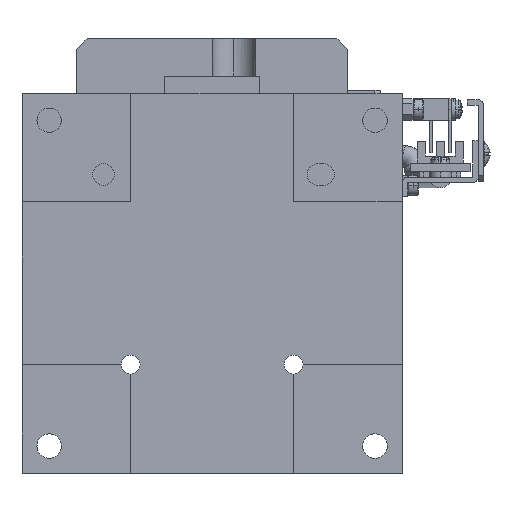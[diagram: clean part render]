
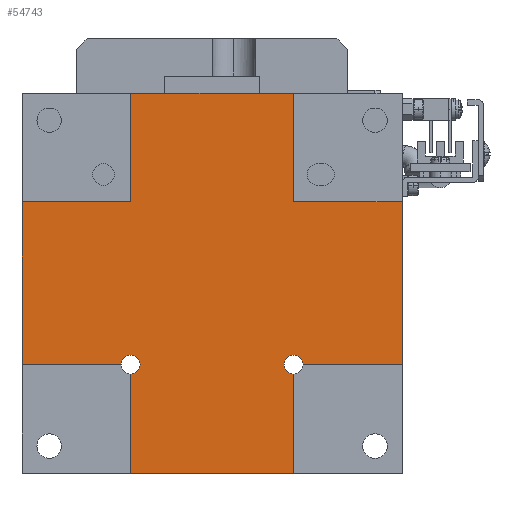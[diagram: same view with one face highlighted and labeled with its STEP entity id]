
A CAD part, front view. The second image highlights one B-rep face of the part: STEP entity #54743.
In plain terms, the highlighted planar face has unit normal (0, -1, 0) as drawn and (1, 0, 0) by its records, which use the part's own axes.
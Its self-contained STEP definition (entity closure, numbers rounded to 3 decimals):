
#54 = ORIENTED_EDGE ( 'NONE', *, *, #63925, .T. ) ;
#383 = LINE ( 'NONE', #56330, #36694 ) ;
#646 = VECTOR ( 'NONE', #55739, 1000. ) ;
#706 = ORIENTED_EDGE ( 'NONE', *, *, #36146, .T. ) ;
#1236 = VECTOR ( 'NONE', #46497, 1000. ) ;
#1338 = DIRECTION ( 'NONE',  ( 0., 0., 1. ) ) ;
#1546 = CIRCLE ( 'NONE', #35709, 1.75 ) ;
#1666 = VECTOR ( 'NONE', #64735, 1000. ) ;
#2385 = CARTESIAN_POINT ( 'NONE',  ( -143.628, 76.428, -166.982 ) ) ;
#3040 = CARTESIAN_POINT ( 'NONE',  ( -143.628, 26.428, -186.982 ) ) ;
#3459 = DIRECTION ( 'NONE',  ( 0., 1., 0. ) ) ;
#3658 = DIRECTION ( 'NONE',  ( 1., 0., 0. ) ) ;
#5149 = VERTEX_POINT ( 'NONE', #53027 ) ;
#5946 = LINE ( 'NONE', #3040, #7520 ) ;
#7320 = CIRCLE ( 'NONE', #36515, 1.75 ) ;
#7520 = VECTOR ( 'NONE', #32846, 1000. ) ;
#7651 = VERTEX_POINT ( 'NONE', #46202 ) ;
#8574 = EDGE_CURVE ( 'NONE', #41471, #32293, #62039, .T. ) ;
#9369 = DIRECTION ( 'NONE',  ( 1., 0., 0. ) ) ;
#9416 = EDGE_CURVE ( 'NONE', #29345, #41471, #59633, .T. ) ;
#9510 = LINE ( 'NONE', #19469, #32487 ) ;
#10011 = ORIENTED_EDGE ( 'NONE', *, *, #54323, .F. ) ;
#12072 = VECTOR ( 'NONE', #43266, 1000. ) ;
#12717 = CARTESIAN_POINT ( 'NONE',  ( -143.628, 26.428, -166.982 ) ) ;
#13146 = AXIS2_PLACEMENT_3D ( 'NONE', #43072, #52557, #27814 ) ;
#13540 = ORIENTED_EDGE ( 'NONE', *, *, #41597, .T. ) ;
#14342 = CARTESIAN_POINT ( 'NONE',  ( -143.628, 26.428, -186.982 ) ) ;
#14882 = CARTESIAN_POINT ( 'NONE',  ( -143.628, 56.428, -166.982 ) ) ;
#15173 = ORIENTED_EDGE ( 'NONE', *, *, #18597, .T. ) ;
#15496 = CARTESIAN_POINT ( 'NONE',  ( -143.628, 26.428, -165.232 ) ) ;
#15773 = VERTEX_POINT ( 'NONE', #2385 ) ;
#17142 = CARTESIAN_POINT ( 'NONE',  ( -143.628, 6.428, -166.982 ) ) ;
#17323 = VERTEX_POINT ( 'NONE', #17142 ) ;
#17348 = FACE_OUTER_BOUND ( 'NONE', #24692, .T. ) ;
#17439 = EDGE_CURVE ( 'NONE', #61523, #39014, #5946, .T. ) ;
#17738 = ORIENTED_EDGE ( 'NONE', *, *, #18334, .F. ) ;
#18334 = EDGE_CURVE ( 'NONE', #17323, #29345, #21639, .T. ) ;
#18597 = EDGE_CURVE ( 'NONE', #39014, #39803, #28685, .T. ) ;
#18650 = CARTESIAN_POINT ( 'NONE',  ( -143.628, 24.678, -166.982 ) ) ;
#18757 = CARTESIAN_POINT ( 'NONE',  ( -143.628, 26.428, -116.982 ) ) ;
#19302 = ORIENTED_EDGE ( 'NONE', *, *, #29967, .F. ) ;
#19469 = CARTESIAN_POINT ( 'NONE',  ( -143.628, 6.428, -136.982 ) ) ;
#20360 = VECTOR ( 'NONE', #1338, 1000. ) ;
#21217 = AXIS2_PLACEMENT_3D ( 'NONE', #33888, #3658, #29943 ) ;
#21639 = LINE ( 'NONE', #41317, #61177 ) ;
#22696 = DIRECTION ( 'NONE',  ( 1., 0., 0. ) ) ;
#23445 = CARTESIAN_POINT ( 'NONE',  ( -143.628, 56.428, -168.732 ) ) ;
#24692 = EDGE_LOOP ( 'NONE', ( #44990, #31946, #54, #38449, #706, #62127, #37061, #60501, #17738, #13540, #10011, #19302, #58246, #26929, #15173, #59376 ) ) ;
#24693 = EDGE_CURVE ( 'NONE', #32293, #7651, #383, .T. ) ;
#25247 = CIRCLE ( 'NONE', #49536, 1.75 ) ;
#25405 = DIRECTION ( 'NONE',  ( 0., 1., 0. ) ) ;
#25871 = LINE ( 'NONE', #61828, #20360 ) ;
#26044 = CARTESIAN_POINT ( 'NONE',  ( -143.628, 6.428, -166.982 ) ) ;
#26929 = ORIENTED_EDGE ( 'NONE', *, *, #17439, .T. ) ;
#27299 = EDGE_CURVE ( 'NONE', #5149, #39435, #9510, .T. ) ;
#27814 = DIRECTION ( 'NONE',  ( 0., 0., -1. ) ) ;
#28096 = EDGE_CURVE ( 'NONE', #61523, #61201, #25871, .T. ) ;
#28685 = LINE ( 'NONE', #52978, #12072 ) ;
#29345 = VERTEX_POINT ( 'NONE', #38222 ) ;
#29605 = CARTESIAN_POINT ( 'NONE',  ( -143.628, 76.428, -166.982 ) ) ;
#29636 = CARTESIAN_POINT ( 'NONE',  ( -143.628, 26.428, -136.982 ) ) ;
#29659 = DIRECTION ( 'NONE',  ( 0., 1., 0. ) ) ;
#29943 = DIRECTION ( 'NONE',  ( 0., 0., -1. ) ) ;
#29967 = EDGE_CURVE ( 'NONE', #61201, #50275, #48573, .T. ) ;
#31154 = DIRECTION ( 'NONE',  ( 0., 1., 0. ) ) ;
#31483 = LINE ( 'NONE', #62097, #65463 ) ;
#31705 = EDGE_CURVE ( 'NONE', #41001, #60976, #7320, .T. ) ;
#31946 = ORIENTED_EDGE ( 'NONE', *, *, #54620, .T. ) ;
#32293 = VERTEX_POINT ( 'NONE', #18757 ) ;
#32487 = VECTOR ( 'NONE', #29659, 1000. ) ;
#32846 = DIRECTION ( 'NONE',  ( 0., 1., 0. ) ) ;
#33155 = CARTESIAN_POINT ( 'NONE',  ( -143.628, 26.428, -168.732 ) ) ;
#33888 = CARTESIAN_POINT ( 'NONE',  ( -143.628, 26.428, -166.982 ) ) ;
#34392 = CARTESIAN_POINT ( 'NONE',  ( -143.628, 76.428, -136.982 ) ) ;
#35709 = AXIS2_PLACEMENT_3D ( 'NONE', #14882, #9369, #55330 ) ;
#36146 = EDGE_CURVE ( 'NONE', #5149, #7651, #59082, .T. ) ;
#36239 = DIRECTION ( 'NONE',  ( 0., 1., 0. ) ) ;
#36515 = AXIS2_PLACEMENT_3D ( 'NONE', #42379, #22696, #37528 ) ;
#36694 = VECTOR ( 'NONE', #31154, 1000. ) ;
#37061 = ORIENTED_EDGE ( 'NONE', *, *, #8574, .F. ) ;
#37528 = DIRECTION ( 'NONE',  ( 0., 0., -1. ) ) ;
#38222 = CARTESIAN_POINT ( 'NONE',  ( -143.628, 6.428, -136.982 ) ) ;
#38449 = ORIENTED_EDGE ( 'NONE', *, *, #27299, .F. ) ;
#39014 = VERTEX_POINT ( 'NONE', #46181 ) ;
#39169 = DIRECTION ( 'NONE',  ( 1., 0., 0. ) ) ;
#39435 = VERTEX_POINT ( 'NONE', #34392 ) ;
#39803 = VERTEX_POINT ( 'NONE', #23445 ) ;
#40968 = CARTESIAN_POINT ( 'NONE',  ( -143.628, 58.178, -166.982 ) ) ;
#41001 = VERTEX_POINT ( 'NONE', #40968 ) ;
#41317 = CARTESIAN_POINT ( 'NONE',  ( -143.628, 6.428, -166.982 ) ) ;
#41471 = VERTEX_POINT ( 'NONE', #29636 ) ;
#41597 = EDGE_CURVE ( 'NONE', #17323, #52766, #54489, .T. ) ;
#42379 = CARTESIAN_POINT ( 'NONE',  ( -143.628, 56.428, -166.982 ) ) ;
#43035 = VECTOR ( 'NONE', #3459, 1000. ) ;
#43072 = CARTESIAN_POINT ( 'NONE',  ( -143.628, 26.428, -186.982 ) ) ;
#43266 = DIRECTION ( 'NONE',  ( 0., 0., 1. ) ) ;
#44990 = ORIENTED_EDGE ( 'NONE', *, *, #31705, .F. ) ;
#46181 = CARTESIAN_POINT ( 'NONE',  ( -143.628, 56.428, -186.982 ) ) ;
#46188 = DIRECTION ( 'NONE',  ( 0., 0., 1. ) ) ;
#46202 = CARTESIAN_POINT ( 'NONE',  ( -143.628, 56.428, -116.982 ) ) ;
#46497 = DIRECTION ( 'NONE',  ( 0., 0., 1. ) ) ;
#47276 = PLANE ( 'NONE',  #13146 ) ;
#47542 = EDGE_CURVE ( 'NONE', #60976, #39803, #1546, .T. ) ;
#48573 = CIRCLE ( 'NONE', #21217, 1.75 ) ;
#49536 = AXIS2_PLACEMENT_3D ( 'NONE', #12717, #39169, #54172 ) ;
#49861 = LINE ( 'NONE', #29605, #1666 ) ;
#50275 = VERTEX_POINT ( 'NONE', #15496 ) ;
#50521 = CARTESIAN_POINT ( 'NONE',  ( -143.628, 56.428, -165.232 ) ) ;
#50666 = CARTESIAN_POINT ( 'NONE',  ( -143.628, 56.428, -186.982 ) ) ;
#52557 = DIRECTION ( 'NONE',  ( 1., 0., 0. ) ) ;
#52766 = VERTEX_POINT ( 'NONE', #18650 ) ;
#52914 = VECTOR ( 'NONE', #25405, 1000. ) ;
#52978 = CARTESIAN_POINT ( 'NONE',  ( -143.628, 56.428, -186.982 ) ) ;
#53027 = CARTESIAN_POINT ( 'NONE',  ( -143.628, 56.428, -136.982 ) ) ;
#54172 = DIRECTION ( 'NONE',  ( 0., 0., -1. ) ) ;
#54323 = EDGE_CURVE ( 'NONE', #50275, #52766, #25247, .T. ) ;
#54489 = LINE ( 'NONE', #26044, #52914 ) ;
#54620 = EDGE_CURVE ( 'NONE', #41001, #15773, #31483, .T. ) ;
#54743 = ADVANCED_FACE ( 'NONE', ( #17348 ), #47276, .T. ) ;
#55330 = DIRECTION ( 'NONE',  ( 0., 0., -1. ) ) ;
#55739 = DIRECTION ( 'NONE',  ( 0., 0., 1. ) ) ;
#55768 = CARTESIAN_POINT ( 'NONE',  ( -143.628, 26.428, -186.982 ) ) ;
#56330 = CARTESIAN_POINT ( 'NONE',  ( -143.628, 26.428, -116.982 ) ) ;
#58246 = ORIENTED_EDGE ( 'NONE', *, *, #28096, .F. ) ;
#59082 = LINE ( 'NONE', #50666, #646 ) ;
#59376 = ORIENTED_EDGE ( 'NONE', *, *, #47542, .F. ) ;
#59633 = LINE ( 'NONE', #64201, #43035 ) ;
#60501 = ORIENTED_EDGE ( 'NONE', *, *, #9416, .F. ) ;
#60976 = VERTEX_POINT ( 'NONE', #50521 ) ;
#61177 = VECTOR ( 'NONE', #46188, 1000. ) ;
#61201 = VERTEX_POINT ( 'NONE', #33155 ) ;
#61523 = VERTEX_POINT ( 'NONE', #14342 ) ;
#61828 = CARTESIAN_POINT ( 'NONE',  ( -143.628, 26.428, -186.982 ) ) ;
#62039 = LINE ( 'NONE', #55768, #1236 ) ;
#62097 = CARTESIAN_POINT ( 'NONE',  ( -143.628, 6.428, -166.982 ) ) ;
#62127 = ORIENTED_EDGE ( 'NONE', *, *, #24693, .F. ) ;
#63925 = EDGE_CURVE ( 'NONE', #15773, #39435, #49861, .T. ) ;
#64201 = CARTESIAN_POINT ( 'NONE',  ( -143.628, 6.428, -136.982 ) ) ;
#64735 = DIRECTION ( 'NONE',  ( 0., 0., 1. ) ) ;
#65463 = VECTOR ( 'NONE', #36239, 1000. ) ;
